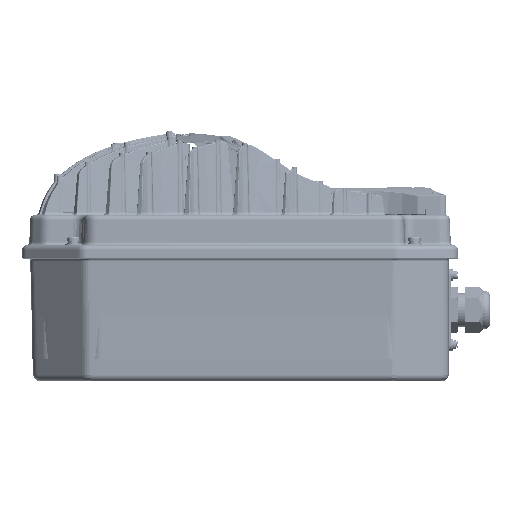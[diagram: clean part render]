
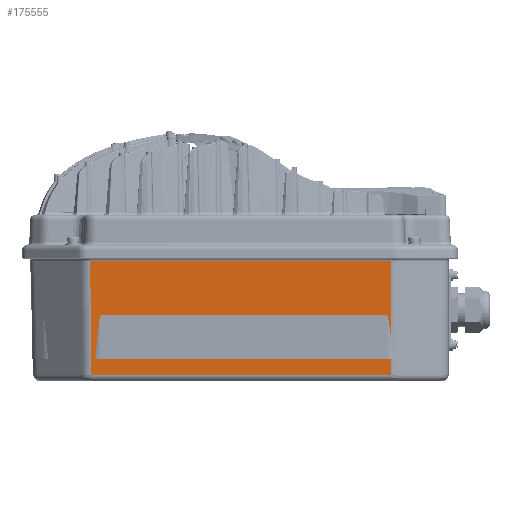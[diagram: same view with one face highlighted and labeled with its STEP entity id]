
A CAD part, left-side view. The second image highlights one B-rep face of the part: STEP entity #175555.
In plain terms, the highlighted planar face has unit normal (-1, 0, -0.026).
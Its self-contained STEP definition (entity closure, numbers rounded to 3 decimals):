
#50081=DIRECTION('',(0.,-1.,0.));
#50082=VECTOR('',#50081,233.114);
#50083=CARTESIAN_POINT('',(-107.397,115.959,
52.852));
#50084=LINE('',#50083,#50082);
#50984=CARTESIAN_POINT('',(-105.41,112.117,
-23.));
#50985=CARTESIAN_POINT('',(-105.49,111.916,
-19.976));
#50986=CARTESIAN_POINT('',(-105.608,111.593,
-15.462));
#50987=CARTESIAN_POINT('',(-105.764,111.1,
-9.511));
#50988=CARTESIAN_POINT('',(-105.879,110.69,
-5.091));
#50989=CARTESIAN_POINT('',(-105.974,110.301,
-1.457));
#50990=CARTESIAN_POINT('',(-106.049,109.948,
1.404));
#50991=CARTESIAN_POINT('',(-106.105,109.654,
3.52));
#50992=CARTESIAN_POINT('',(-106.159,109.322,
5.595));
#50993=CARTESIAN_POINT('',(-106.203,108.998,
7.272));
#50994=CARTESIAN_POINT('',(-106.237,108.687,
8.56));
#50995=CARTESIAN_POINT('',(-106.261,108.412,
9.481));
#50996=CARTESIAN_POINT('',(-106.28,108.137,
10.198));
#50997=CARTESIAN_POINT('',(-106.292,107.818,
10.668));
#50998=CARTESIAN_POINT('',(-106.297,107.626,
10.867));
#50999=CARTESIAN_POINT('',(-106.297,107.436,
10.867));
#51004=DIRECTION('',(0.,1.,0.));
#51005=VECTOR('',#51004,228.713);
#51006=CARTESIAN_POINT('',(-105.41,-116.596,
-23.));
#51007=LINE('',#51006,#51005);
#51011=DIRECTION('',(-0.026,-0.007,1.));
#51012=VECTOR('',#51011,12.135);
#51013=CARTESIAN_POINT('',(-105.093,-116.507,
-35.131));
#51014=LINE('',#51013,#51012);
#51018=DIRECTION('',(0.026,-0.01,-1.));
#51019=VECTOR('',#51018,88.018);
#51020=CARTESIAN_POINT('',(-107.397,115.959,
52.852));
#51021=LINE('',#51020,#51019);
#51025=DIRECTION('',(-0.026,-0.007,1.));
#51026=VECTOR('',#51025,58.421);
#51027=CARTESIAN_POINT('',(-105.867,-116.725,
-5.547));
#51028=LINE('',#51027,#51026);
#51032=DIRECTION('',(0.,1.,0.));
#51033=VECTOR('',#51032,220.872);
#51034=CARTESIAN_POINT('',(-106.297,-113.436,
10.867));
#51035=LINE('',#51034,#51033);
#51054=CARTESIAN_POINT('',(-105.41,-116.596,-23.));
#51077=CARTESIAN_POINT('',(-105.867,-116.725,
-5.547));
#51078=CARTESIAN_POINT('',(-105.907,-116.577,
-4.041));
#51079=CARTESIAN_POINT('',(-105.966,-116.34,
-1.796));
#51080=CARTESIAN_POINT('',(-106.043,-115.981,
1.148));
#51081=CARTESIAN_POINT('',(-106.1,-115.683,
3.325));
#51082=CARTESIAN_POINT('',(-106.156,-115.346,
5.458));
#51083=CARTESIAN_POINT('',(-106.201,-115.017,
7.183));
#51084=CARTESIAN_POINT('',(-106.235,-114.702,
8.505));
#51085=CARTESIAN_POINT('',(-106.26,-114.423,
9.45));
#51086=CARTESIAN_POINT('',(-106.279,-114.143,
10.185));
#51087=CARTESIAN_POINT('',(-106.292,-113.821,
10.665));
#51088=CARTESIAN_POINT('',(-106.297,-113.625,
10.867));
#51089=CARTESIAN_POINT('',(-106.297,-113.436,
10.867));
#51120=CARTESIAN_POINT('',(-107.397,-117.156,
52.852));
#60743=DIRECTION('',(0.,1.,0.));
#60744=VECTOR('',#60743,231.543);
#60745=CARTESIAN_POINT('',(-105.093,-116.507,
-35.131));
#60746=LINE('',#60745,#60744);
#107732=CARTESIAN_POINT('',(-107.397,115.958,
52.852));
#107733=VERTEX_POINT('',#107732);
#107734=CARTESIAN_POINT('',(-105.093,115.037,
-35.131));
#107735=VERTEX_POINT('',#107734);
#107741=CARTESIAN_POINT('',(-105.093,-116.507,
-35.131));
#107743=VERTEX_POINT('',#107741);
#107772=VERTEX_POINT('',#51054);
#107776=VERTEX_POINT('',#51120);
#107777=CARTESIAN_POINT('',(-105.867,-116.725,
-5.547));
#107778=VERTEX_POINT('',#107777);
#107779=VERTEX_POINT('',#51089);
#107962=CARTESIAN_POINT('',(-105.41,112.117,-23.));
#107963=VERTEX_POINT('',#107962);
#108042=CARTESIAN_POINT('',(-106.297,107.436,
10.867));
#108043=VERTEX_POINT('',#108042);
#175532=CARTESIAN_POINT('',(-107.5,128.391,56.8));
#175533=DIRECTION('',(-1.,0.,-0.026));
#175534=DIRECTION('',(0.,-1.,0.));
#175535=AXIS2_PLACEMENT_3D('',#175532,#175533,#175534);
#175536=PLANE('',#175535);
#175538=ORIENTED_EDGE('',*,*,#175537,.T.);
#175540=ORIENTED_EDGE('',*,*,#175539,.F.);
#175542=ORIENTED_EDGE('',*,*,#175541,.F.);
#175544=ORIENTED_EDGE('',*,*,#175543,.F.);
#175546=ORIENTED_EDGE('',*,*,#175545,.T.);
#175547=ORIENTED_EDGE('',*,*,#175523,.F.);
#175548=ORIENTED_EDGE('',*,*,#174670,.T.);
#175550=ORIENTED_EDGE('',*,*,#175549,.F.);
#175552=ORIENTED_EDGE('',*,*,#175551,.T.);
#175553=EDGE_LOOP('',(#175538,#175540,#175542,#175544,#175546,#175547,#175548,
#175550,#175552));
#175554=FACE_OUTER_BOUND('',#175553,.F.);
#51000=B_SPLINE_CURVE_WITH_KNOTS('',3,(#50984,#50985,#50986,#50987,#50988,
#50989,#50990,#50991,#50992,#50993,#50994,#50995,#50996,#50997,#50998,#50999),
.UNSPECIFIED.,.F.,.F.,(4,1,1,1,1,1,1,1,1,1,1,1,1,4),(0.,0.25,0.375,0.5,
0.625,0.688,0.75,0.813,0.875,0.906,0.938,0.969,
0.984,1.),.UNSPECIFIED.);
#51090=B_SPLINE_CURVE_WITH_KNOTS('',3,(#51077,#51078,#51079,#51080,#51081,
#51082,#51083,#51084,#51085,#51086,#51087,#51088,#51089),.UNSPECIFIED.,.F.,.F.,(
4,1,1,1,1,1,1,1,1,1,4),(0.,0.25,0.375,0.5,0.625,0.75,0.813,
0.875,0.938,0.969,1.),.UNSPECIFIED.);
#174670=EDGE_CURVE('',#107733,#107776,#50084,.T.);
#175523=EDGE_CURVE('',#107733,#107735,#51021,.T.);
#175537=EDGE_CURVE('',#107779,#108043,#51035,.T.);
#175539=EDGE_CURVE('',#107963,#108043,#51000,.T.);
#175541=EDGE_CURVE('',#107772,#107963,#51007,.T.);
#175543=EDGE_CURVE('',#107743,#107772,#51014,.T.);
#175545=EDGE_CURVE('',#107743,#107735,#60746,.T.);
#175549=EDGE_CURVE('',#107778,#107776,#51028,.T.);
#175551=EDGE_CURVE('',#107778,#107779,#51090,.T.);
#175555=ADVANCED_FACE('',(#175554),#175536,.T.);
